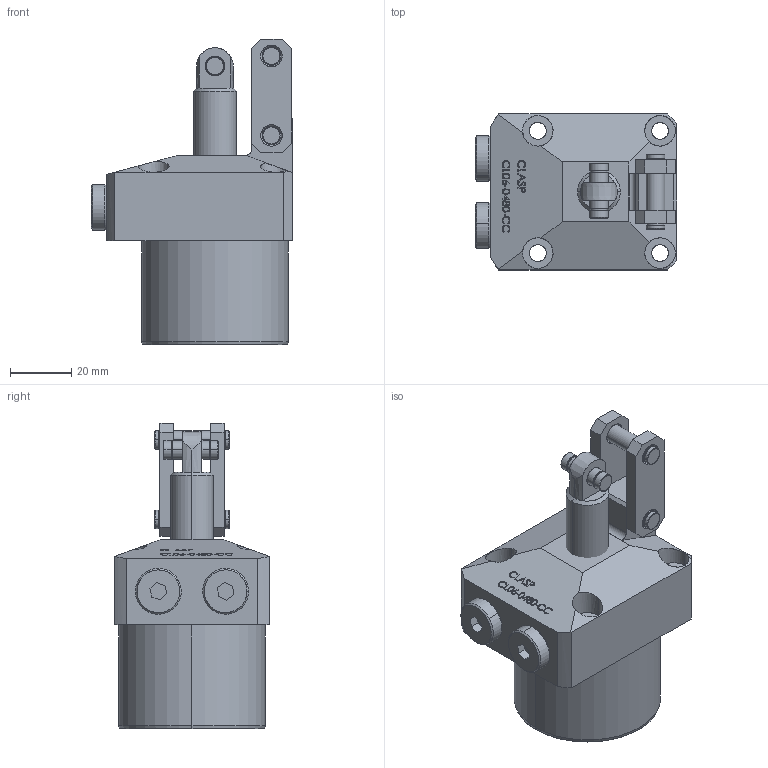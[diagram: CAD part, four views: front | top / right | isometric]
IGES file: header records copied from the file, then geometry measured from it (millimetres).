
Start section: SolidWorks IGES file using analytic representation for surfaces
Global section: file name: D:\karuppas\Clasp\3D model\Link clamp cylinder\CL06-0480-CC\CLO6-0480 cc.IGS; native system: SolidWorks 2017; preprocessor: SolidWorks 2017; author: pc; date: 220705.225059; units: millimetre
Bounding box: 66 x 51 x 100 mm (x, y, z)
Surface area: 29134.7 mm2 (no closed solid volume)
Topology: 0 solids, 0 shells, 427 faces, 6534 edges, 6530 vertices
Faces by surface type: bspline 291, revolution 136
